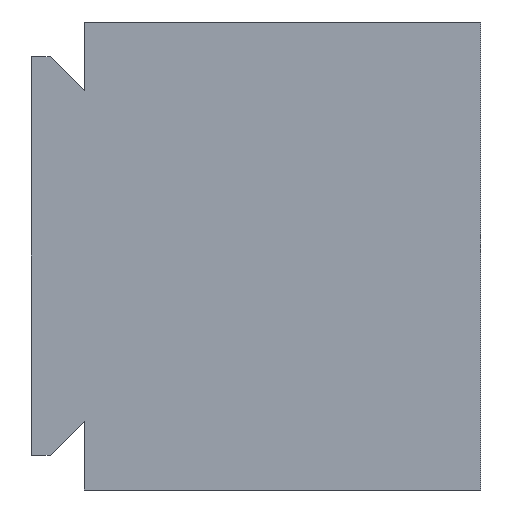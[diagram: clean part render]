
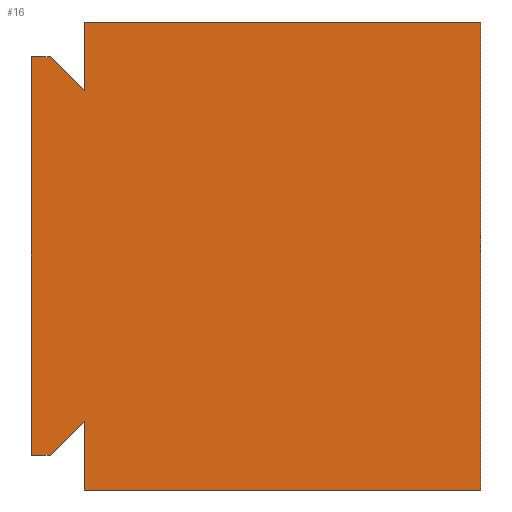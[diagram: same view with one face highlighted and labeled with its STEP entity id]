
A CAD part, left-side view. The second image highlights one B-rep face of the part: STEP entity #16.
In plain terms, the highlighted planar face has unit normal (-1, 0, 0).
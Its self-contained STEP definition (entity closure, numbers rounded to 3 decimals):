
#6 = DIRECTION ( 'NONE',  ( 0., 1., 0. ) ) ;
#16 = ADVANCED_FACE ( 'NONE', ( #591 ), #694, .T. ) ;
#36 = CARTESIAN_POINT ( 'NONE',  ( -37.5, -10.564, 11. ) ) ;
#42 = DIRECTION ( 'NONE',  ( 0., 0.707, 0.707 ) ) ;
#44 = EDGE_LOOP ( 'NONE', ( #216, #679, #341, #333, #629, #603, #890, #188, #617, #628 ) ) ;
#46 = EDGE_CURVE ( 'NONE', #340, #308, #388, .T. ) ;
#50 = LINE ( 'NONE', #57, #428 ) ;
#57 = CARTESIAN_POINT ( 'NONE',  ( -37.5, 8.064, 11. ) ) ;
#80 = EDGE_CURVE ( 'NONE', #482, #196, #641, .T. ) ;
#88 = VERTEX_POINT ( 'NONE', #637 ) ;
#89 = DIRECTION ( 'NONE',  ( -1., 0., 0. ) ) ;
#127 = EDGE_CURVE ( 'NONE', #431, #390, #794, .T. ) ;
#160 = CARTESIAN_POINT ( 'NONE',  ( -37.5, 9.675, 9.373 ) ) ;
#169 = EDGE_CURVE ( 'NONE', #390, #88, #438, .T. ) ;
#170 = LINE ( 'NONE', #389, #191 ) ;
#182 = LINE ( 'NONE', #335, #566 ) ;
#188 = ORIENTED_EDGE ( 'NONE', *, *, #759, .F. ) ;
#191 = VECTOR ( 'NONE', #42, 1000. ) ;
#196 = VERTEX_POINT ( 'NONE', #588 ) ;
#198 = CARTESIAN_POINT ( 'NONE',  ( -37.5, 9.675, -9.373 ) ) ;
#215 = VERTEX_POINT ( 'NONE', #656 ) ;
#216 = ORIENTED_EDGE ( 'NONE', *, *, #80, .T. ) ;
#232 = DIRECTION ( 'NONE',  ( 0., -0.707, 0.707 ) ) ;
#266 = DIRECTION ( 'NONE',  ( 0., 0., -1. ) ) ;
#308 = VERTEX_POINT ( 'NONE', #457 ) ;
#333 = ORIENTED_EDGE ( 'NONE', *, *, #169, .T. ) ;
#335 = CARTESIAN_POINT ( 'NONE',  ( -37.5, 8.064, -7.762 ) ) ;
#340 = VERTEX_POINT ( 'NONE', #886 ) ;
#341 = ORIENTED_EDGE ( 'NONE', *, *, #127, .T. ) ;
#348 = EDGE_CURVE ( 'NONE', #431, #196, #489, .T. ) ;
#358 = CARTESIAN_POINT ( 'NONE',  ( -37.5, 9.675, 9.373 ) ) ;
#388 = LINE ( 'NONE', #426, #730 ) ;
#389 = CARTESIAN_POINT ( 'NONE',  ( -37.5, 9.675, 9.373 ) ) ;
#390 = VERTEX_POINT ( 'NONE', #198 ) ;
#393 = CARTESIAN_POINT ( 'NONE',  ( -37.5, -10.564, 11. ) ) ;
#394 = DIRECTION ( 'NONE',  ( 0., -1., 0. ) ) ;
#406 = CARTESIAN_POINT ( 'NONE',  ( -37.5, 10.564, 11. ) ) ;
#416 = LINE ( 'NONE', #736, #446 ) ;
#426 = CARTESIAN_POINT ( 'NONE',  ( -37.5, -10.564, -11. ) ) ;
#428 = VECTOR ( 'NONE', #539, 1000. ) ;
#431 = VERTEX_POINT ( 'NONE', #892 ) ;
#433 = EDGE_CURVE ( 'NONE', #215, #642, #50, .T. ) ;
#436 = VECTOR ( 'NONE', #670, 1000. ) ;
#438 = LINE ( 'NONE', #865, #602 ) ;
#446 = VECTOR ( 'NONE', #394, 1000. ) ;
#457 = CARTESIAN_POINT ( 'NONE',  ( -37.5, 8.064, -11. ) ) ;
#466 = CARTESIAN_POINT ( 'NONE',  ( -37.5, 8.064, 7.762 ) ) ;
#482 = VERTEX_POINT ( 'NONE', #358 ) ;
#489 = LINE ( 'NONE', #406, #500 ) ;
#498 = DIRECTION ( 'NONE',  ( 0., 1., 0. ) ) ;
#500 = VECTOR ( 'NONE', #893, 1000. ) ;
#516 = VERTEX_POINT ( 'NONE', #36 ) ;
#539 = DIRECTION ( 'NONE',  ( 0., 0., -1. ) ) ;
#566 = VECTOR ( 'NONE', #266, 1000. ) ;
#583 = CARTESIAN_POINT ( 'NONE',  ( -37.5, 9.675, -9.373 ) ) ;
#588 = CARTESIAN_POINT ( 'NONE',  ( -37.5, 10.564, 9.373 ) ) ;
#591 = FACE_OUTER_BOUND ( 'NONE', #44, .T. ) ;
#602 = VECTOR ( 'NONE', #232, 1000. ) ;
#603 = ORIENTED_EDGE ( 'NONE', *, *, #46, .F. ) ;
#617 = ORIENTED_EDGE ( 'NONE', *, *, #433, .T. ) ;
#628 = ORIENTED_EDGE ( 'NONE', *, *, #680, .T. ) ;
#629 = ORIENTED_EDGE ( 'NONE', *, *, #770, .T. ) ;
#637 = CARTESIAN_POINT ( 'NONE',  ( -37.5, 8.064, -7.762 ) ) ;
#641 = LINE ( 'NONE', #160, #842 ) ;
#642 = VERTEX_POINT ( 'NONE', #466 ) ;
#656 = CARTESIAN_POINT ( 'NONE',  ( -37.5, 8.064, 11. ) ) ;
#670 = DIRECTION ( 'NONE',  ( 0., 0., -1. ) ) ;
#679 = ORIENTED_EDGE ( 'NONE', *, *, #348, .F. ) ;
#680 = EDGE_CURVE ( 'NONE', #642, #482, #170, .T. ) ;
#694 = PLANE ( 'NONE',  #734 ) ;
#714 = DIRECTION ( 'NONE',  ( 0., -1., 0. ) ) ;
#730 = VECTOR ( 'NONE', #6, 1000. ) ;
#734 = AXIS2_PLACEMENT_3D ( 'NONE', #904, #89, #776 ) ;
#736 = CARTESIAN_POINT ( 'NONE',  ( -37.5, -10.564, 11. ) ) ;
#739 = EDGE_CURVE ( 'NONE', #516, #340, #777, .T. ) ;
#759 = EDGE_CURVE ( 'NONE', #215, #516, #416, .T. ) ;
#770 = EDGE_CURVE ( 'NONE', #88, #308, #182, .T. ) ;
#776 = DIRECTION ( 'NONE',  ( 0., 0., 1. ) ) ;
#777 = LINE ( 'NONE', #393, #436 ) ;
#794 = LINE ( 'NONE', #583, #901 ) ;
#842 = VECTOR ( 'NONE', #498, 1000. ) ;
#865 = CARTESIAN_POINT ( 'NONE',  ( -37.5, 9.675, -9.373 ) ) ;
#886 = CARTESIAN_POINT ( 'NONE',  ( -37.5, -10.564, -11. ) ) ;
#890 = ORIENTED_EDGE ( 'NONE', *, *, #739, .F. ) ;
#892 = CARTESIAN_POINT ( 'NONE',  ( -37.5, 10.564, -9.373 ) ) ;
#893 = DIRECTION ( 'NONE',  ( 0., 0., 1. ) ) ;
#901 = VECTOR ( 'NONE', #714, 1000. ) ;
#904 = CARTESIAN_POINT ( 'NONE',  ( -37.5, 0., 0. ) ) ;
